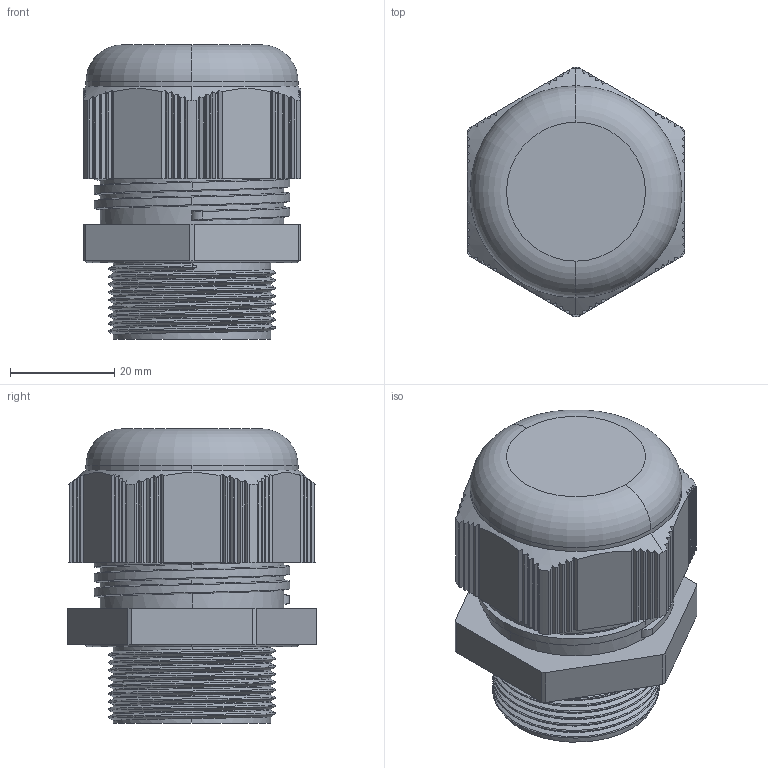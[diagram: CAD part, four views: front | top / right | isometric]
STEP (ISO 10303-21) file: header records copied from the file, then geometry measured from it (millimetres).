
FILE_DESCRIPTION (( 'STEP AP203' ), '1' );
FILE_NAME ('CPG32_V3.STEP', '2018-06-26T08:50:42', ( '' ), ( '' ), 'SwSTEP 2.0', 'SolidWorks 2017', '' );
FILE_SCHEMA (( 'CONFIG_CONTROL_DESIGN' ));
Length unit declared in the file: millimetre
Products named in the file (2): CPG32_V3
Bounding box: 41.69 x 47.7 x 56.32 mm (x, y, z)
Volume: 65989.3 mm3; surface area: 12182.7 mm2
Topology: 1 solids, 1 shells, 276 faces, 809 edges, 536 vertices
Faces by surface type: plane 163, cylinder 93, torus 9, cone 6, bspline 5
Entity records: 13017 total; most frequent: CARTESIAN_POINT 5655, ORIENTED_EDGE 1610, DIRECTION 1463, EDGE_CURVE 805, VERTEX_POINT 536, AXIS2_PLACEMENT_3D 523, VECTOR 417, LINE 417
